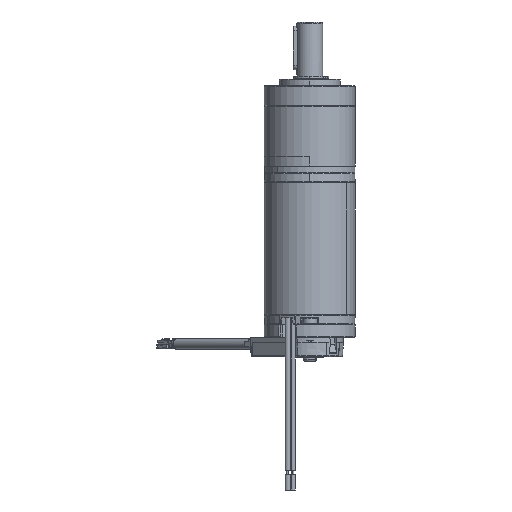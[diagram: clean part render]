
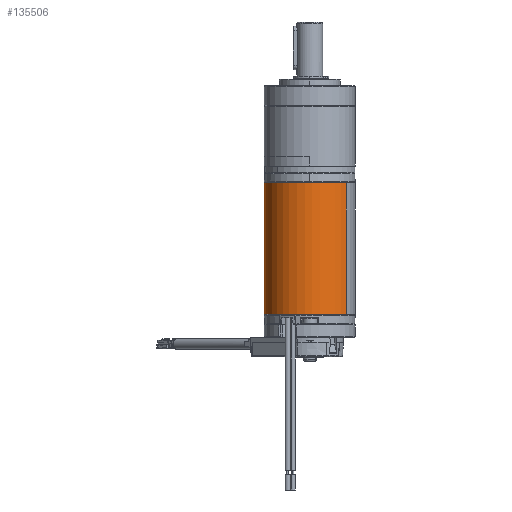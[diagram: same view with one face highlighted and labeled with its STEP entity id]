
A CAD part, left-side view. The second image highlights one B-rep face of the part: STEP entity #135506.
In plain terms, the highlighted cylindrical face has radius 21 mm (diameter 42 mm), a partial arc.
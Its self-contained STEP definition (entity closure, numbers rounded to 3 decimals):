
#14166 = AXIS2_PLACEMENT_3D ( 'NONE', #80473, #57511, #136592 ) ;
#15648 = VECTOR ( 'NONE', #156787, 1000. ) ;
#19045 = VECTOR ( 'NONE', #153059, 1000. ) ;
#23648 = VERTEX_POINT ( 'NONE', #150895 ) ;
#33377 = CARTESIAN_POINT ( 'NONE',  ( 5.131, -8.599, 1.085 ) ) ;
#45108 = AXIS2_PLACEMENT_3D ( 'NONE', #33377, #144790, #88630 ) ;
#48697 = EDGE_CURVE ( 'NONE', #23648, #165790, #135738, .T. ) ;
#57511 = DIRECTION ( 'NONE',  ( 0., 0., -1. ) ) ;
#58949 = EDGE_CURVE ( 'NONE', #23648, #151891, #73436, .T. ) ;
#63303 = FACE_OUTER_BOUND ( 'NONE', #170383, .T. ) ;
#64798 = DIRECTION ( 'NONE',  ( 0., 0., -1. ) ) ;
#72375 = LINE ( 'NONE', #168523, #19045 ) ;
#73436 = LINE ( 'NONE', #102395, #15648 ) ;
#80473 = CARTESIAN_POINT ( 'NONE',  ( 5.131, -8.599, 22.935 ) ) ;
#88630 = DIRECTION ( 'NONE',  ( 0.596, 0.803, 0. ) ) ;
#89390 = ORIENTED_EDGE ( 'NONE', *, *, #48697, .T. ) ;
#102395 = CARTESIAN_POINT ( 'NONE',  ( -7.378, -25.468, 22.935 ) ) ;
#106932 = EDGE_CURVE ( 'NONE', #111300, #151891, #172439, .T. ) ;
#108283 = CARTESIAN_POINT ( 'NONE',  ( 5.131, -8.599, 61.785 ) ) ;
#109080 = ORIENTED_EDGE ( 'NONE', *, *, #58949, .F. ) ;
#111300 = VERTEX_POINT ( 'NONE', #116575 ) ;
#116575 = CARTESIAN_POINT ( 'NONE',  ( 17.639, 8.269, 1.085 ) ) ;
#120081 = DIRECTION ( 'NONE',  ( 0.596, 0.803, 0. ) ) ;
#125922 = EDGE_CURVE ( 'NONE', #165790, #111300, #72375, .T. ) ;
#129563 = CARTESIAN_POINT ( 'NONE',  ( -7.378, -25.468, 1.085 ) ) ;
#135506 = ADVANCED_FACE ( 'NONE', ( #63303 ), #171236, .T. ) ;
#135738 = CIRCLE ( 'NONE', #161963, 21. ) ;
#136592 = DIRECTION ( 'NONE',  ( -0.596, -0.803, 0. ) ) ;
#144790 = DIRECTION ( 'NONE',  ( 0., 0., 1. ) ) ;
#146921 = ORIENTED_EDGE ( 'NONE', *, *, #106932, .T. ) ;
#150895 = CARTESIAN_POINT ( 'NONE',  ( -7.378, -25.468, 61.785 ) ) ;
#151891 = VERTEX_POINT ( 'NONE', #129563 ) ;
#153059 = DIRECTION ( 'NONE',  ( 0., 0., -1. ) ) ;
#156787 = DIRECTION ( 'NONE',  ( 0., 0., -1. ) ) ;
#161963 = AXIS2_PLACEMENT_3D ( 'NONE', #108283, #64798, #120081 ) ;
#164726 = ORIENTED_EDGE ( 'NONE', *, *, #125922, .T. ) ;
#165790 = VERTEX_POINT ( 'NONE', #172450 ) ;
#168523 = CARTESIAN_POINT ( 'NONE',  ( 17.639, 8.269, 22.935 ) ) ;
#170383 = EDGE_LOOP ( 'NONE', ( #89390, #164726, #146921, #109080 ) ) ;
#171236 = CYLINDRICAL_SURFACE ( 'NONE', #14166, 21. ) ;
#172439 = CIRCLE ( 'NONE', #45108, 21. ) ;
#172450 = CARTESIAN_POINT ( 'NONE',  ( 17.639, 8.269, 61.785 ) ) ;
